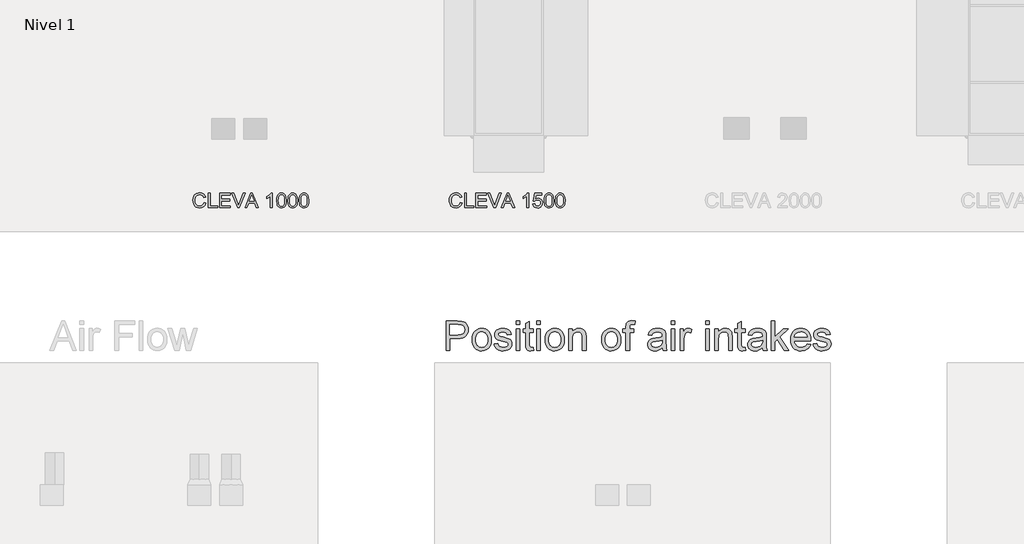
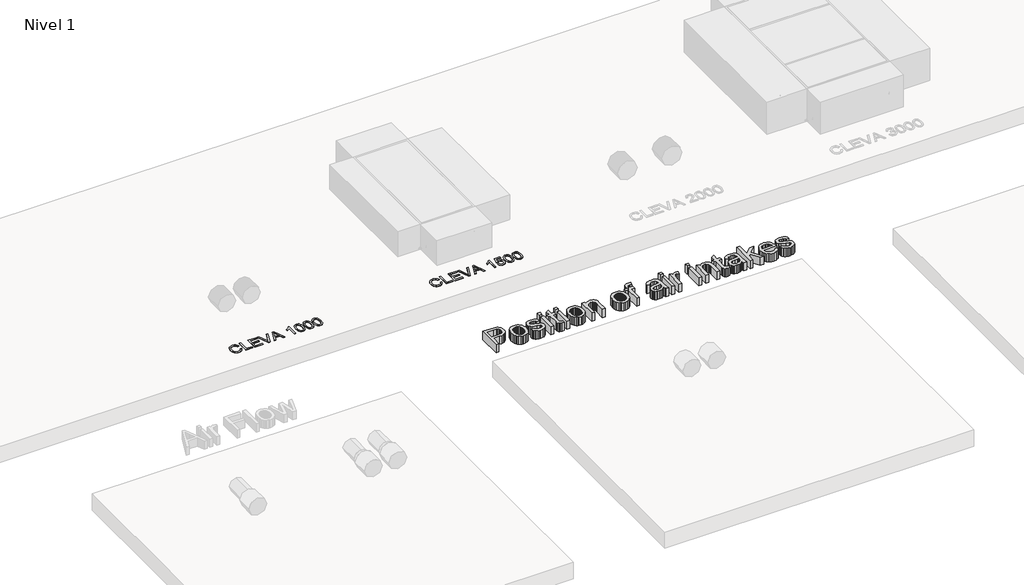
# One storey, part 2 of 4: 3 proxies.
"""IFC4 building model written with IfcOpenShell, lengths in millimetres."""

from ifc_helpers import new_model, si_unit, origin, origin_with_axes, place, context, project, spatial, polyline, outline, extrude, element, save

model = new_model("IFC4")

# Units and contexts
model_context = context("Model", 3, world=origin())
ifc_project = project(units=[si_unit("LENGTHUNIT", "METRE", prefix="MILLI")], contexts=[model_context])

# Site, building, storey
site = spatial("IfcSite", under=ifc_project)
building = spatial("IfcBuilding", under=site)
storey = spatial("IfcBuildingStorey", under=building, Name="Nivel 1", Elevation=0.0)

# Proxies
placement = place(None, origin())
element("IfcBuildingElementProxy", 1, Name="200mm Arial", ObjectType="200mm Arial", at=placement, inside=storey, context=model_context, shape_type="SweptSolid", body=[
    extrude(outline(polyline([(-6146.1687948, 6690.6454799), (-6121.0547173, 6684.1707568), (-6132.6430001, 6654.9057441), (-6150.8286334, 6633.5256688), (-6174.7164376, 6620.4474638), (-6203.4112333, 6616.0880622), (-6232.5413559, 6619.3867374), (-6255.6750021, 6629.2827631), (-6273.4069142, 6645.4327827), (-6286.331835, 6667.4934397), (-6294.2229038, 6693.4291203), (-6296.85326, 6721.204211), (-6293.8795472, 6750.4998805), (-6284.9584089, 6775.797899), (-6270.5558288, 6796.2950575), (-6251.1377908, 6811.188147), (-6228.1083779, 6820.2564382), (-6202.871673, 6823.2792019), (-6175.3357057, 6819.36739), (-6152.5699415, 6807.6319544), (-6135.2856191, 6788.7963962), (-6124.193977, 6763.5842168), (-6149.3080545, 6757.600003), (-6158.0145951, 6775.914395), (-6169.9094462, 6788.4775651), (-6185.1397608, 6795.7432345), (-6203.8526917, 6798.1651244), (-6225.4228393, 6795.4795858), (-6243.1424887, 6787.4229701), (-6256.5885757, 6774.8414059), (-6265.3380358, 6758.5810217), (-6270.1388958, 6740.1991846), (-6271.7391825, 6721.2532619), (-6269.8445902, 6698.0521707), (-6264.1608134, 6677.9903393), (-6254.4732542, 6661.8341883), (-6240.5673148, 6650.3501387), (-6223.896129, 6643.4891395), (-6205.9128308, 6641.2021397), (-6184.9496885, 6644.316874), (-6167.4814251, 6653.6610766), (-6154.2928555, 6669.1366459), (-6146.1687948, 6690.6454799)])), origin_with_axes(), (0.0, 0.0, 1.0), 10.0),
    extrude(outline(polyline([(-6086.5228607, 6619.2273219), (-6086.5228607, 6820.1399422), (-6061.4087831, 6820.1399422), (-6061.4087831, 6644.3413994), (-5960.952473, 6644.3413994), (-5960.952473, 6619.2273219), (-6086.5228607, 6619.2273219)])), origin_with_axes(), (0.0, 0.0, 1.0), 10.0),
    extrude(outline(polyline([(-5932.6991358, 6619.2273219), (-5932.6991358, 6820.1399422), (-5788.2931899, 6820.1399422), (-5788.2931899, 6795.0258647), (-5907.5850582, 6795.0258647), (-5907.5850582, 6735.3799305), (-5794.5717093, 6735.3799305), (-5794.5717093, 6710.265853), (-5907.5850582, 6710.265853), (-5907.5850582, 6644.3413994), (-5785.1539302, 6644.3413994), (-5785.1539302, 6619.2273219), (-5932.6991358, 6619.2273219)])), origin_with_axes(), (0.0, 0.0, 1.0), 10.0),
    extrude(outline(polyline([(-5585.663787, 6619.2273219), (-5505.465512, 6820.1399422), (-5484.0793054, 6820.1399422), (-5403.8810304, 6619.2273219), (-5430.417585, 6619.2273219), (-5453.4224724, 6682.0125157), (-5536.1713959, 6682.0125157), (-5559.1272324, 6619.2273219), (-5585.663787, 6619.2273219)]), holes=[polyline([(-5526.9498205, 6707.1265933), (-5462.5949968, 6707.1265933), (-5480.694791, 6756.5208825), (-5494.7724087, 6795.0258647), (-5507.2803965, 6760.8373646), (-5526.9498205, 6707.1265933)])]), origin_with_axes(), (0.0, 0.0, 1.0), 10.0),
    extrude(outline(polyline([(-5688.1311854, 6619.2273219), (-5768.0842056, 6820.1399422), (-5741.2042945, 6820.1399422), (-5687.689727, 6675.3906398), (-5676.8494708, 6642.7717696), (-5666.1563675, 6675.3906398), (-5612.4946471, 6820.1399422), (-5585.614736, 6820.1399422), (-5662.183242, 6619.2273219), (-5688.1311854, 6619.2273219)])), origin_with_axes(), (0.0, 0.0, 1.0), 10.0),
    extrude(outline(polyline([(-5213.8086662, 6619.2273219), (-5238.9227438, 6619.2273219), (-5238.9227438, 6775.797899), (-5262.7124461, 6758.8508018), (-5289.1508989, 6746.1711357), (-5289.1508989, 6769.9117871), (-5252.3381739, 6793.4071839), (-5238.8675615, 6806.9820295), (-5229.995474, 6820.1399422), (-5213.8086662, 6820.1399422), (-5213.8086662, 6619.2273219)])), origin_with_axes(), (0.0, 0.0, 1.0), 10.0),
    extrude(outline(polyline([(-5154.1627321, 6718.0649513), (-5152.3171907, 6750.223969), (-5146.7805667, 6775.8714754), (-5137.6080423, 6795.399878), (-5124.8547998, 6809.2015842), (-5108.4288687, 6817.4053527), (-5088.2382786, 6820.1399422), (-5072.7627093, 6818.5212614), (-5058.9058208, 6813.6652191), (-5047.317538, 6805.7618876), (-5038.6477856, 6795.0013392), (-5026.8755618, 6765.276474), (-5022.313825, 6718.0649513), (-5024.1409723, 6686.0898745), (-5029.622414, 6660.5036818), (-5038.7397561, 6640.9568851), (-5051.4746045, 6627.0999966), (-5067.9373238, 6618.8410458), (-5088.2382786, 6616.0880622), (-5114.3333747, 6620.8705281), (-5134.1499516, 6635.217926), (-5142.905543, 6650.347073), (-5149.159537, 6669.1979596), (-5154.1627321, 6718.0649513)]), holes=[polyline([(-5129.0486546, 6718.1140022), (-5126.1055986, 6678.6096073), (-5117.2764307, 6655.7457413), (-5104.1307807, 6644.8380401), (-5088.2382786, 6641.2021397), (-5072.3457764, 6644.8503029), (-5059.2001264, 6655.7947922), (-5050.3709585, 6678.670921), (-5047.4279026, 6718.1140022), (-5050.2728567, 6756.729349), (-5058.8077189, 6779.7710246), (-5071.9288434, 6791.2121546), (-5088.5325842, 6795.0258647), (-5104.2534081, 6791.6658758), (-5116.8840232, 6781.5859091), (-5126.0074967, 6757.1094937), (-5129.0486546, 6718.1140022)])]), origin_with_axes(), (0.0, 0.0, 1.0), 10.0),
    extrude(outline(polyline([(-5000.3390072, 6718.0649513), (-4998.4934658, 6750.223969), (-4992.9568418, 6775.8714754), (-4983.7843174, 6795.399878), (-4971.0310749, 6809.2015842), (-4954.6051438, 6817.4053527), (-4934.4145536, 6820.1399422), (-4918.9389844, 6818.5212614), (-4905.0820959, 6813.6652191), (-4893.493813, 6805.7618876), (-4884.8240607, 6795.0013392), (-4873.0518368, 6765.276474), (-4868.4901001, 6718.0649513), (-4870.3172473, 6686.0898745), (-4875.7986891, 6660.5036818), (-4884.9160312, 6640.9568851), (-4897.6508796, 6627.0999966), (-4914.1135989, 6618.8410458), (-4934.4145536, 6616.0880622), (-4960.5096498, 6620.8705281), (-4980.3262266, 6635.217926), (-4989.0818181, 6650.347073), (-4995.335812, 6669.1979596), (-5000.3390072, 6718.0649513)]), holes=[polyline([(-4975.2249296, 6718.1140022), (-4972.2818737, 6678.6096073), (-4963.4527058, 6655.7457413), (-4950.3070558, 6644.8380401), (-4934.4145536, 6641.2021397), (-4918.5220514, 6644.8503029), (-4905.3764015, 6655.7947922), (-4896.5472336, 6678.670921), (-4893.6041776, 6718.1140022), (-4896.4491317, 6756.729349), (-4904.983994, 6779.7710246), (-4918.1051185, 6791.2121546), (-4934.7088592, 6795.0258647), (-4950.4296832, 6791.6658758), (-4963.0602983, 6781.5859091), (-4972.1837718, 6757.1094937), (-4975.2249296, 6718.1140022)])]), origin_with_axes(), (0.0, 0.0, 1.0), 10.0),
    extrude(outline(polyline([(-4846.5152823, 6718.0649513), (-4844.6697409, 6750.223969), (-4839.1331169, 6775.8714754), (-4829.9605925, 6795.399878), (-4817.20735, 6809.2015842), (-4800.7814189, 6817.4053527), (-4780.5908287, 6820.1399422), (-4765.1152595, 6818.5212614), (-4751.258371, 6813.6652191), (-4739.6700881, 6805.7618876), (-4731.0003358, 6795.0013392), (-4719.2281119, 6765.276474), (-4714.6663752, 6718.0649513), (-4716.4935224, 6686.0898745), (-4721.9749642, 6660.5036818), (-4731.0923063, 6640.9568851), (-4743.8271547, 6627.0999966), (-4760.289874, 6618.8410458), (-4780.5908287, 6616.0880622), (-4806.6859249, 6620.8705281), (-4826.5025017, 6635.217926), (-4835.2580932, 6650.347073), (-4841.5120871, 6669.1979596), (-4846.5152823, 6718.0649513)]), holes=[polyline([(-4821.4012047, 6718.1140022), (-4818.4581488, 6678.6096073), (-4809.6289809, 6655.7457413), (-4796.4833309, 6644.8380401), (-4780.5908287, 6641.2021397), (-4764.6983265, 6644.8503029), (-4751.5526766, 6655.7947922), (-4742.7235087, 6678.670921), (-4739.7804527, 6718.1140022), (-4742.6254068, 6756.729349), (-4751.1602691, 6779.7710246), (-4764.2813936, 6791.2121546), (-4780.8851343, 6795.0258647), (-4796.6059582, 6791.6658758), (-4809.2365734, 6781.5859091), (-4818.3600469, 6757.1094937), (-4821.4012047, 6718.1140022)])]), origin_with_axes(), (0.0, 0.0, 1.0), 10.0),
])
element("IfcBuildingElementProxy", 2, Name="200mm Arial", ObjectType="200mm Arial", at=placement, inside=storey, context=model_context, shape_type="SweptSolid", body=[
    extrude(outline(polyline([(-2646.1687948, 6690.6454799), (-2621.0547173, 6684.1707568), (-2632.6430001, 6654.9057441), (-2650.8286334, 6633.5256688), (-2674.7164376, 6620.4474638), (-2703.4112333, 6616.0880622), (-2732.5413559, 6619.3867374), (-2755.6750021, 6629.2827631), (-2773.4069142, 6645.4327827), (-2786.331835, 6667.4934397), (-2794.2229038, 6693.4291203), (-2796.85326, 6721.204211), (-2793.8795472, 6750.4998805), (-2784.9584089, 6775.797899), (-2770.5558288, 6796.2950575), (-2751.1377908, 6811.188147), (-2728.1083779, 6820.2564382), (-2702.871673, 6823.2792019), (-2675.3357057, 6819.36739), (-2652.5699415, 6807.6319544), (-2635.2856191, 6788.7963962), (-2624.193977, 6763.5842168), (-2649.3080545, 6757.600003), (-2658.0145951, 6775.914395), (-2669.9094462, 6788.4775651), (-2685.1397608, 6795.7432345), (-2703.8526917, 6798.1651244), (-2725.4228393, 6795.4795858), (-2743.1424887, 6787.4229701), (-2756.5885757, 6774.8414059), (-2765.3380358, 6758.5810217), (-2770.1388958, 6740.1991846), (-2771.7391825, 6721.2532619), (-2769.8445902, 6698.0521707), (-2764.1608134, 6677.9903393), (-2754.4732542, 6661.8341883), (-2740.5673148, 6650.3501387), (-2723.896129, 6643.4891395), (-2705.9128308, 6641.2021397), (-2684.9496885, 6644.316874), (-2667.4814251, 6653.6610766), (-2654.2928555, 6669.1366459), (-2646.1687948, 6690.6454799)])), origin_with_axes(), (0.0, 0.0, 1.0), 10.0),
    extrude(outline(polyline([(-2586.5228607, 6619.2273219), (-2586.5228607, 6820.1399422), (-2561.4087831, 6820.1399422), (-2561.4087831, 6644.3413994), (-2460.952473, 6644.3413994), (-2460.952473, 6619.2273219), (-2586.5228607, 6619.2273219)])), origin_with_axes(), (0.0, 0.0, 1.0), 10.0),
    extrude(outline(polyline([(-2432.6991358, 6619.2273219), (-2432.6991358, 6820.1399422), (-2288.2931899, 6820.1399422), (-2288.2931899, 6795.0258647), (-2407.5850582, 6795.0258647), (-2407.5850582, 6735.3799305), (-2294.5717093, 6735.3799305), (-2294.5717093, 6710.265853), (-2407.5850582, 6710.265853), (-2407.5850582, 6644.3413994), (-2285.1539302, 6644.3413994), (-2285.1539302, 6619.2273219), (-2432.6991358, 6619.2273219)])), origin_with_axes(), (0.0, 0.0, 1.0), 10.0),
    extrude(outline(polyline([(-2085.663787, 6619.2273219), (-2005.465512, 6820.1399422), (-1984.0793054, 6820.1399422), (-1903.8810304, 6619.2273219), (-1930.417585, 6619.2273219), (-1953.4224724, 6682.0125157), (-2036.1713959, 6682.0125157), (-2059.1272324, 6619.2273219), (-2085.663787, 6619.2273219)]), holes=[polyline([(-2026.9498205, 6707.1265933), (-1962.5949968, 6707.1265933), (-1980.694791, 6756.5208825), (-1994.7724087, 6795.0258647), (-2007.2803965, 6760.8373646), (-2026.9498205, 6707.1265933)])]), origin_with_axes(), (0.0, 0.0, 1.0), 10.0),
    extrude(outline(polyline([(-2188.1311854, 6619.2273219), (-2268.0842056, 6820.1399422), (-2241.2042945, 6820.1399422), (-2187.689727, 6675.3906398), (-2176.8494708, 6642.7717696), (-2166.1563675, 6675.3906398), (-2112.4946471, 6820.1399422), (-2085.614736, 6820.1399422), (-2162.183242, 6619.2273219), (-2188.1311854, 6619.2273219)])), origin_with_axes(), (0.0, 0.0, 1.0), 10.0),
    extrude(outline(polyline([(-1713.8086662, 6619.2273219), (-1738.9227438, 6619.2273219), (-1738.9227438, 6775.797899), (-1762.7124461, 6758.8508018), (-1789.1508989, 6746.1711357), (-1789.1508989, 6769.9117871), (-1752.3381739, 6793.4071839), (-1738.8675615, 6806.9820295), (-1729.995474, 6820.1399422), (-1713.8086662, 6820.1399422), (-1713.8086662, 6619.2273219)])), origin_with_axes(), (0.0, 0.0, 1.0), 10.0),
    extrude(outline(polyline([(-1654.1627321, 6672.5947367), (-1629.0486546, 6675.7339964), (-1624.4378669, 6660.6569659), (-1616.3935139, 6649.8596294), (-1604.9523839, 6643.3665121), (-1590.1512649, 6641.2021397), (-1572.1495726, 6644.2126407), (-1558.6605661, 6653.2441437), (-1550.2360685, 6667.2543164), (-1547.4279026, 6685.2008264), (-1550.0582588, 6702.0988727), (-1557.9493276, 6715.0237934), (-1571.1624226, 6723.2275619), (-1589.7588575, 6725.9621514), (-1611.8072517, 6721.5966184), (-1625.9093949, 6710.265853), (-1651.0234724, 6713.4051127), (-1629.0486546, 6817.0006825), (-1531.7316041, 6817.0006825), (-1531.7316041, 6791.886605), (-1608.7415684, 6791.886605), (-1619.4837227, 6736.5571529), (-1601.543344, 6747.4464599), (-1582.7445741, 6751.076229), (-1559.2798342, 6746.5758059), (-1539.8004825, 6733.0745367), (-1526.6854894, 6712.4976704), (-1522.313825, 6686.7704562), (-1526.2501624, 6661.6563787), (-1538.0591744, 6640.1720702), (-1548.4947603, 6629.6353167), (-1560.6716544, 6622.1090642), (-1574.5898565, 6617.5933127), (-1590.2493668, 6616.0880622), (-1614.9158546, 6619.9569545), (-1634.5668845, 6631.5636315), (-1648.0374969, 6649.5591924), (-1654.1627321, 6672.5947367)])), origin_with_axes(), (0.0, 0.0, 1.0), 10.0),
    extrude(outline(polyline([(-1500.3390072, 6718.0649513), (-1498.4934658, 6750.223969), (-1492.9568418, 6775.8714754), (-1483.7843174, 6795.399878), (-1471.0310749, 6809.2015842), (-1454.6051438, 6817.4053527), (-1434.4145536, 6820.1399422), (-1418.9389844, 6818.5212614), (-1405.0820959, 6813.6652191), (-1393.493813, 6805.7618876), (-1384.8240607, 6795.0013392), (-1373.0518368, 6765.276474), (-1368.4901001, 6718.0649513), (-1370.3172473, 6686.0898745), (-1375.7986891, 6660.5036818), (-1384.9160312, 6640.9568851), (-1397.6508796, 6627.0999966), (-1414.1135989, 6618.8410458), (-1434.4145536, 6616.0880622), (-1460.5096498, 6620.8705281), (-1480.3262266, 6635.217926), (-1489.0818181, 6650.347073), (-1495.335812, 6669.1979596), (-1500.3390072, 6718.0649513)]), holes=[polyline([(-1475.2249296, 6718.1140022), (-1472.2818737, 6678.6096073), (-1463.4527058, 6655.7457413), (-1450.3070558, 6644.8380401), (-1434.4145536, 6641.2021397), (-1418.5220514, 6644.8503029), (-1405.3764015, 6655.7947922), (-1396.5472336, 6678.670921), (-1393.6041776, 6718.1140022), (-1396.4491317, 6756.729349), (-1404.983994, 6779.7710246), (-1418.1051185, 6791.2121546), (-1434.7088592, 6795.0258647), (-1450.4296832, 6791.6658758), (-1463.0602983, 6781.5859091), (-1472.1837718, 6757.1094937), (-1475.2249296, 6718.1140022)])]), origin_with_axes(), (0.0, 0.0, 1.0), 10.0),
    extrude(outline(polyline([(-1346.5152823, 6718.0649513), (-1344.6697409, 6750.223969), (-1339.1331169, 6775.8714754), (-1329.9605925, 6795.399878), (-1317.20735, 6809.2015842), (-1300.7814189, 6817.4053527), (-1280.5908287, 6820.1399422), (-1265.1152595, 6818.5212614), (-1251.258371, 6813.6652191), (-1239.6700881, 6805.7618876), (-1231.0003358, 6795.0013392), (-1219.2281119, 6765.276474), (-1214.6663752, 6718.0649513), (-1216.4935224, 6686.0898745), (-1221.9749642, 6660.5036818), (-1231.0923063, 6640.9568851), (-1243.8271547, 6627.0999966), (-1260.289874, 6618.8410458), (-1280.5908287, 6616.0880622), (-1306.6859249, 6620.8705281), (-1326.5025017, 6635.217926), (-1335.2580932, 6650.347073), (-1341.5120871, 6669.1979596), (-1346.5152823, 6718.0649513)]), holes=[polyline([(-1321.4012047, 6718.1140022), (-1318.4581488, 6678.6096073), (-1309.6289809, 6655.7457413), (-1296.4833309, 6644.8380401), (-1280.5908287, 6641.2021397), (-1264.6983265, 6644.8503029), (-1251.5526766, 6655.7947922), (-1242.7235087, 6678.670921), (-1239.7804527, 6718.1140022), (-1242.6254068, 6756.729349), (-1251.1602691, 6779.7710246), (-1264.2813936, 6791.2121546), (-1280.8851343, 6795.0258647), (-1296.6059582, 6791.6658758), (-1309.2365734, 6781.5859091), (-1318.3600469, 6757.1094937), (-1321.4012047, 6718.1140022)])]), origin_with_axes(), (0.0, 0.0, 1.0), 10.0),
])
element("IfcBuildingElementProxy", 3, Name="400mm Arial", ObjectType="400mm Arial", at=placement, inside=storey, context=model_context, shape_type="SweptSolid", body=[
    extrude(outline(polyline([(-2837.484269, 4668.837362), (-2837.484269, 5070.6626026), (-2688.5656373, 5070.6626026), (-2628.5272957, 5066.8366298), (-2601.7577492, 5059.6874564), (-2579.7216177, 5048.0501226), (-2561.9774428, 5031.3973309), (-2548.0837661, 5009.2017839), (-2539.1074454, 4983.0208486), (-2536.1153385, 4954.4118921), (-2538.1356238, 4929.7454043), (-2544.1964797, 4907.0532166), (-2554.2979061, 4886.3353289), (-2568.4399031, 4867.5917412), (-2587.8548754, 4852.0548583), (-2613.7752277, 4840.9570848), (-2646.2009599, 4834.2984207), (-2685.132072, 4832.0788659), (-2787.2561139, 4832.0788659), (-2787.2561139, 4668.837362), (-2837.484269, 4668.837362)]), holes=[polyline([(-2787.2561139, 4882.307021), (-2682.1890161, 4882.307021), (-2637.6507692, 4886.9178087), (-2621.0470285, 4892.6812933), (-2608.2202096, 4900.7501717), (-2598.6491463, 4910.9098461), (-2591.8126726, 4922.9457188), (-2586.3434936, 4952.6460585), (-2589.5685924, 4975.2094875), (-2599.2438889, 4994.2412494), (-2614.1676351, 5008.5641218), (-2633.1380834, 5017.0008822), (-2683.3662384, 5020.4344475), (-2787.2561139, 5020.4344475), (-2787.2561139, 4882.307021)])]), origin_with_axes(), (0.0, 0.0, 1.0), 150.0),
    extrude(outline(polyline([(-2485.8871834, 4816.3825675), (-2483.170988, 4854.5993754), (-2475.0224018, 4887.5309454), (-2461.4414248, 4915.1772773), (-2442.4280571, 4937.5383712), (-2423.2859306, 4951.8305867), (-2402.1572413, 4962.0393121), (-2379.0419893, 4968.1645473), (-2353.9401745, 4970.2062924), (-2326.2294632, 4967.7200233), (-2301.1736337, 4960.2612158), (-2278.7726858, 4947.82987), (-2259.0266197, 4930.425986), (-2242.9103227, 4908.6381748), (-2231.3986819, 4883.0550477), (-2224.4916974, 4853.6766047), (-2222.1893693, 4820.5028458), (-2226.2605967, 4769.759656), (-2238.4742789, 4731.1320465), (-2258.4747967, 4702.2042589), (-2285.9065309, 4680.5605349), (-2318.4886129, 4667.0592656), (-2353.9401745, 4662.5588426), (-2382.055556, 4665.0359147), (-2407.3443775, 4672.467131), (-2429.8066389, 4684.8524915), (-2449.4423404, 4702.1919962), (-2465.3869592, 4724.1913395), (-2476.7759727, 4750.5562158), (-2483.6093807, 4781.2866251), (-2485.8871834, 4816.3825675)]), holes=[polyline([(-2435.6590284, 4816.4806694), (-2434.2058945, 4792.1176842), (-2429.8464928, 4771.0227175), (-2422.5808234, 4753.1957691), (-2412.4088863, 4738.6368392), (-2400.0357885, 4727.3275335), (-2386.1666373, 4719.249458), (-2370.8014326, 4714.4026127), (-2353.9401745, 4712.7869976), (-2337.1647555, 4714.4118098), (-2321.8608645, 4719.2862462), (-2308.0285015, 4727.410307), (-2295.6676665, 4738.783992), (-2285.4957293, 4753.487009), (-2278.2300599, 4771.5990659), (-2273.8706582, 4793.1201627), (-2272.4175244, 4818.0502992), (-2273.8798553, 4841.6407321), (-2278.2668481, 4862.1838759), (-2285.5785027, 4879.6797304), (-2295.8148193, 4894.1282958), (-2308.2216395, 4905.4376015), (-2322.0448055, 4913.5156769), (-2337.2843172, 4918.3625222), (-2353.9401745, 4919.9781373), (-2370.8014326, 4918.3686536), (-2386.1666373, 4913.5402024), (-2400.0357885, 4905.4927838), (-2412.4088863, 4894.2263977), (-2422.5808234, 4879.7103873), (-2429.8464928, 4861.9140958), (-2434.2058945, 4840.8375231), (-2435.6590284, 4816.4806694)])]), origin_with_axes(), (0.0, 0.0, 1.0), 150.0),
    extrude(outline(polyline([(-2184.518253, 4756.7366333), (-2134.2900979, 4763.0151527), (-2126.3683723, 4741.5308442), (-2111.0399558, 4725.7364439), (-2088.2067466, 4716.0243592), (-2057.7706429, 4712.7869976), (-2027.7024212, 4715.7545791), (-2006.5614692, 4724.6573234), (-1994.0534813, 4737.5577187), (-1989.8841521, 4752.5182531), (-1994.0780068, 4765.3205466), (-2006.659571, 4775.0816822), (-2058.3592541, 4789.4045545), (-2133.9957923, 4813.9790718), (-2153.1379188, 4826.3276441), (-2167.00707, 4842.6738674), (-2175.4315677, 4861.9754094), (-2178.2397336, 4883.1899378), (-2175.9833907, 4902.6508954), (-2169.214362, 4920.6157995), (-2158.5457841, 4936.3734116), (-2144.5907938, 4949.2124932), (-2112.6586366, 4964.0749258), (-2091.775202, 4968.6734508), (-2069.4447649, 4970.2062924), (-2036.7523183, 4967.741483), (-2008.3273028, 4960.3470549), (-1985.4695681, 4948.7465094), (-1969.4789641, 4933.6633475), (-1958.8839626, 4913.9816608), (-1952.2130358, 4888.5855404), (-2002.4411908, 4882.307021), (-2008.7810239, 4898.1136841), (-2021.3257999, 4910.020798), (-2040.1981463, 4917.4888025), (-2065.5206903, 4919.9781373), (-2094.3626387, 4917.5991671), (-2113.5906043, 4910.4622564), (-2124.406335, 4900.1615605), (-2128.0115785, 4888.2912348), (-2122.0273647, 4873.6740569), (-2103.2899084, 4862.5885461), (-2060.0269858, 4851.8954428), (-1986.303434, 4828.2528932), (-1966.8302137, 4816.9466532), (-1952.065883, 4801.4710839), (-1942.7584685, 4781.7771345), (-1939.655997, 4757.8157539), (-1943.2980287, 4733.0450328), (-1954.224124, 4709.7458398), (-1972.0173498, 4689.745322), (-1996.2607733, 4674.8706267), (-2025.5441801, 4665.6367886), (-2058.457356, 4662.5588426), (-2085.4905512, 4664.0426333), (-2109.102444, 4668.4940054), (-2129.2930341, 4675.912959), (-2146.0623218, 4686.299494), (-2159.7597947, 4699.6045595), (-2170.7349409, 4715.7791045), (-2178.9877603, 4734.8231292), (-2184.518253, 4756.7366333)])), origin_with_axes(), (0.0, 0.0, 1.0), 150.0),
    extrude(outline(polyline([(-1883.1493225, 5020.4344475), (-1883.1493225, 5070.6626026), (-1832.9211675, 5070.6626026), (-1832.9211675, 5020.4344475), (-1883.1493225, 5020.4344475)])), origin_with_axes(), (0.0, 0.0, 1.0), 150.0),
    extrude(outline(polyline([(-1883.1493225, 4668.837362), (-1883.1493225, 4963.927773), (-1832.9211675, 4963.927773), (-1832.9211675, 4668.837362), (-1883.1493225, 4668.837362)])), origin_with_axes(), (0.0, 0.0, 1.0), 150.0),
    extrude(outline(polyline([(-1650.8441053, 4710.7268585), (-1644.5655859, 4667.365834), (-1682.1386004, 4662.5588426), (-1706.2471338, 4664.6435072), (-1724.2243006, 4670.8975011), (-1736.9284922, 4680.5360094), (-1745.2180998, 4692.7742171), (-1749.7798365, 4713.7925418), (-1751.3004155, 4749.7714009), (-1751.3004155, 4913.6996179), (-1788.9715318, 4913.6996179), (-1788.9715318, 4963.927773), (-1751.3004155, 4963.927773), (-1751.3004155, 5035.6402366), (-1701.0722604, 5065.1688981), (-1701.0722604, 4963.927773), (-1650.8441053, 4963.927773), (-1650.8441053, 4913.6996179), (-1701.0722604, 4913.6996179), (-1701.0722604, 4751.2429289), (-1698.42351, 4725.3440364), (-1689.8395968, 4716.171512), (-1672.7208213, 4712.7869976), (-1650.8441053, 4710.7268585)])), origin_with_axes(), (0.0, 0.0, 1.0), 150.0),
    extrude(outline(polyline([(-1600.6159502, 5020.4344475), (-1600.6159502, 5070.6626026), (-1550.3877952, 5070.6626026), (-1550.3877952, 5020.4344475), (-1600.6159502, 5020.4344475)])), origin_with_axes(), (0.0, 0.0, 1.0), 150.0),
    extrude(outline(polyline([(-1600.6159502, 4668.837362), (-1600.6159502, 4963.927773), (-1550.3877952, 4963.927773), (-1550.3877952, 4668.837362), (-1600.6159502, 4668.837362)])), origin_with_axes(), (0.0, 0.0, 1.0), 150.0),
    extrude(outline(polyline([(-1487.6026013, 4816.3825675), (-1484.8864059, 4854.5993754), (-1476.7378197, 4887.5309454), (-1463.1568427, 4915.1772773), (-1444.143475, 4937.5383712), (-1425.0013485, 4951.8305867), (-1403.8726592, 4962.0393121), (-1380.7574072, 4968.1645473), (-1355.6555924, 4970.2062924), (-1327.9448811, 4967.7200233), (-1302.8890515, 4960.2612158), (-1280.4881037, 4947.82987), (-1260.7420376, 4930.425986), (-1244.6257406, 4908.6381748), (-1233.1140998, 4883.0550477), (-1226.2071153, 4853.6766047), (-1223.9047872, 4820.5028458), (-1227.9760146, 4769.759656), (-1240.1896968, 4731.1320465), (-1260.1902146, 4702.2042589), (-1287.6219487, 4680.5605349), (-1320.2040308, 4667.0592656), (-1355.6555924, 4662.5588426), (-1383.7709739, 4665.0359147), (-1409.0597953, 4672.467131), (-1431.5220568, 4684.8524915), (-1451.1577583, 4702.1919962), (-1467.1023771, 4724.1913395), (-1478.4913906, 4750.5562158), (-1485.3247986, 4781.2866251), (-1487.6026013, 4816.3825675)]), holes=[polyline([(-1437.3744462, 4816.4806694), (-1435.9213124, 4792.1176842), (-1431.5619107, 4771.0227175), (-1424.2962413, 4753.1957691), (-1414.1243041, 4738.6368392), (-1401.7512064, 4727.3275335), (-1387.8820552, 4719.249458), (-1372.5168505, 4714.4026127), (-1355.6555924, 4712.7869976), (-1338.8801734, 4714.4118098), (-1323.5762824, 4719.2862462), (-1309.7439194, 4727.410307), (-1297.3830843, 4738.783992), (-1287.2111472, 4753.487009), (-1279.9454778, 4771.5990659), (-1275.5860761, 4793.1201627), (-1274.1329422, 4818.0502992), (-1275.5952732, 4841.6407321), (-1279.982266, 4862.1838759), (-1287.2939206, 4879.6797304), (-1297.5302371, 4894.1282958), (-1309.9370574, 4905.4376015), (-1323.7602234, 4913.5156769), (-1338.999735, 4918.3625222), (-1355.6555924, 4919.9781373), (-1372.5168505, 4918.3686536), (-1387.8820552, 4913.5402024), (-1401.7512064, 4905.4927838), (-1414.1243041, 4894.2263977), (-1424.2962413, 4879.7103873), (-1431.5619107, 4861.9140958), (-1435.9213124, 4840.8375231), (-1437.3744462, 4816.4806694)])]), origin_with_axes(), (0.0, 0.0, 1.0), 150.0),
    extrude(outline(polyline([(-1167.3981127, 4668.837362), (-1167.3981127, 4963.927773), (-1117.1699576, 4963.927773), (-1117.1699576, 4922.7249896), (-1099.7200883, 4943.4980596), (-1078.7630773, 4958.3359667), (-1054.2989247, 4967.238711), (-1026.3276303, 4970.2062924), (-1001.569172, 4967.8150594), (-978.8953784, 4960.6413605), (-959.9862438, 4949.5803752), (-946.5217628, 4935.527283), (-937.3860266, 4918.5188721), (-931.4631265, 4898.5919307), (-928.8143761, 4850.0315073), (-928.8143761, 4668.837362), (-979.0425312, 4668.837362), (-979.0425312, 4843.2624786), (-980.4895337, 4869.2349475), (-984.8305412, 4887.7026236), (-992.838106, 4900.9341127), (-1005.2847802, 4911.1980204), (-1021.238596, 4917.7831081), (-1039.7675859, 4919.9781373), (-1069.1858827, 4915.0485186), (-1094.2631721, 4900.2596624), (-1104.2848908, 4888.1870016), (-1111.4432612, 4871.6874941), (-1115.7382835, 4850.7611399), (-1117.1699576, 4825.4079391), (-1117.1699576, 4668.837362), (-1167.3981127, 4668.837362)])), origin_with_axes(), (0.0, 0.0, 1.0), 150.0),
    extrude(outline(polyline([(-715.344717, 4816.3825675), (-712.6285216, 4854.5993754), (-704.4799355, 4887.5309454), (-690.8989585, 4915.1772773), (-671.8855907, 4937.5383712), (-652.7434642, 4951.8305867), (-631.6147749, 4962.0393121), (-608.4995229, 4968.1645473), (-583.3977081, 4970.2062924), (-555.6869968, 4967.7200233), (-530.6311673, 4960.2612158), (-508.2302194, 4947.82987), (-488.4841533, 4930.425986), (-472.3678563, 4908.6381748), (-460.8562155, 4883.0550477), (-453.9492311, 4853.6766047), (-451.6469029, 4820.5028458), (-455.7181303, 4769.759656), (-467.9318126, 4731.1320465), (-487.9323304, 4702.2042589), (-515.3640645, 4680.5605349), (-547.9461465, 4667.0592656), (-583.3977081, 4662.5588426), (-611.5130896, 4665.0359147), (-636.8019111, 4672.467131), (-659.2641726, 4684.8524915), (-678.8998741, 4702.1919962), (-694.8444929, 4724.1913395), (-706.2335063, 4750.5562158), (-713.0669144, 4781.2866251), (-715.344717, 4816.3825675)]), holes=[polyline([(-665.116562, 4816.4806694), (-663.6634281, 4792.1176842), (-659.3040264, 4771.0227175), (-652.038357, 4753.1957691), (-641.8664199, 4738.6368392), (-629.4933221, 4727.3275335), (-615.6241709, 4719.249458), (-600.2589662, 4714.4026127), (-583.3977081, 4712.7869976), (-566.6222891, 4714.4118098), (-551.3183981, 4719.2862462), (-537.4860351, 4727.410307), (-525.1252001, 4738.783992), (-514.9532629, 4753.487009), (-507.6875935, 4771.5990659), (-503.3281919, 4793.1201627), (-501.875058, 4818.0502992), (-503.3373889, 4841.6407321), (-507.7243817, 4862.1838759), (-515.0360364, 4879.6797304), (-525.2723529, 4894.1282958), (-537.6791732, 4905.4376015), (-551.5023391, 4913.5156769), (-566.7418508, 4918.3625222), (-583.3977081, 4919.9781373), (-600.2589662, 4918.3686536), (-615.6241709, 4913.5402024), (-629.4933221, 4905.4927838), (-641.8664199, 4894.2263977), (-652.038357, 4879.7103873), (-659.3040264, 4861.9140958), (-663.6634281, 4840.8375231), (-665.116562, 4816.4806694)])]), origin_with_axes(), (0.0, 0.0, 1.0), 150.0),
    extrude(outline(polyline([(-382.5831897, 4668.837362), (-382.5831897, 4913.6996179), (-426.5328254, 4913.6996179), (-426.5328254, 4963.927773), (-382.5831897, 4963.927773), (-382.5831897, 4993.6526382), (-381.2588145, 5018.251681), (-377.2856889, 5035.5421347), (-367.1811968, 5052.2439773), (-351.5830002, 5065.4632037), (-329.7553352, 5074.0716424), (-300.9624377, 5076.9411219), (-255.1488665, 5071.4474175), (-262.5065064, 5024.3585221), (-291.4465567, 5026.7129669), (-310.5396323, 5024.6283022), (-323.0844083, 5018.3743083), (-330.037378, 5006.4304062), (-332.3550346, 4987.276017), (-332.3550346, 4963.927773), (-275.8483601, 4963.927773), (-275.8483601, 4913.6996179), (-332.3550346, 4913.6996179), (-332.3550346, 4668.837362), (-382.5831897, 4668.837362)])), origin_with_axes(), (0.0, 0.0, 1.0), 150.0),
    extrude(outline(polyline([(113.4198417, 4706.5084783), (89.4216729, 4685.931612), (64.7122655, 4672.467131), (38.7275339, 4665.0359147), (10.9033924, 4662.5588426), (-11.4607673, 4664.0487647), (-31.0719433, 4668.5185309), (-47.9301357, 4675.9681413), (-62.0353445, 4686.3975959), (-73.1729719, 4699.144707), (-81.1284201, 4713.5472871), (-85.901689, 4729.6053362), (-87.4927786, 4747.3188543), (-85.0892829, 4768.1409752), (-77.8787958, 4787.0501097), (-66.7564968, 4803.2369175), (-52.6175655, 4815.8920582), (-36.001562, 4825.45699), (-17.4480467, 4832.3731715), (26.0110796, 4839.9270152), (77.3674062, 4847.8732663), (113.1255361, 4857.1929435), (113.4198417, 4868.3765561), (109.9617509, 4890.7928324), (99.5874787, 4905.4590613), (76.3863875, 4916.3483683), (44.0618229, 4919.9781373), (14.1407539, 4917.5623789), (-6.7549434, 4910.3151036), (-21.0042393, 4896.9119362), (-30.9861041, 4876.0285016), (-81.2142592, 4882.307021), (-72.4954559, 4909.7755433), (-59.484696, 4931.3579537), (-40.9679689, 4947.8635926), (-15.7312641, 4960.1018003), (15.1340353, 4967.6801694), (50.536546, 4970.2062924), (84.4920541, 4967.974475), (111.4087535, 4961.2790227), (131.7035769, 4951.2113187), (145.7934573, 4938.8627464), (155.1376599, 4923.5956436), (161.1954501, 4904.7723482), (163.6479968, 4860.8227125), (163.6479968, 4798.3318243), (166.1986453, 4711.070215), (176.2050355, 4668.837362), (125.9768805, 4668.837362), (117.9325275, 4686.299494), (113.4198417, 4706.5084783)]), holes=[polyline([(113.4198417, 4806.9647884), (79.6728, 4798.6016044), (32.3877009, 4791.5627955), (-10.8261708, 4783.4203407), (-22.0710971, 4777.8530599), (-30.397493, 4770.1765889), (-35.5478409, 4760.979539), (-37.2646235, 4750.8505214), (-33.5244899, 4735.9145124), (-22.3040891, 4723.6763047), (-3.8486756, 4715.5093244), (21.5964957, 4712.7869976), (48.5745087, 4715.7913673), (72.413262, 4724.8044762), (91.7393294, 4738.0850162), (105.179285, 4753.8916792), (111.1389733, 4770.1765889), (113.1255361, 4792.7400179), (113.4198417, 4806.9647884)])]), origin_with_axes(), (0.0, 0.0, 1.0), 150.0),
    extrude(outline(polyline([(232.71171, 5020.4344475), (232.71171, 5070.6626026), (282.9398651, 5070.6626026), (282.9398651, 5020.4344475), (232.71171, 5020.4344475)])), origin_with_axes(), (0.0, 0.0, 1.0), 150.0),
    extrude(outline(polyline([(232.71171, 4668.837362), (232.71171, 4963.927773), (282.9398651, 4963.927773), (282.9398651, 4668.837362), (232.71171, 4668.837362)])), origin_with_axes(), (0.0, 0.0, 1.0), 150.0),
    extrude(outline(polyline([(358.2820977, 4668.837362), (358.2820977, 4963.927773), (402.2317334, 4963.927773), (402.2317334, 4920.2724429), (418.4675921, 4945.5827242), (433.4281266, 4960.4942077), (448.437712, 4967.7782712), (464.8207235, 4970.2062924), (489.8366992, 4966.3312687), (515.2450823, 4954.7061977), (498.4696633, 4909.6774415), (480.8113275, 4917.4029634), (463.1529918, 4919.9781373), (448.1556691, 4917.5010652), (434.7525017, 4910.0698489), (423.9245084, 4898.2485741), (416.6527076, 4882.6013266), (410.5458665, 4854.5441931), (408.5102528, 4823.9364111), (408.5102528, 4668.837362), (358.2820977, 4668.837362)])), origin_with_axes(), (0.0, 0.0, 1.0), 150.0),
    extrude(outline(polyline([(703.6006638, 5020.4344475), (703.6006638, 5070.6626026), (753.8288189, 5070.6626026), (753.8288189, 5020.4344475), (703.6006638, 5020.4344475)])), origin_with_axes(), (0.0, 0.0, 1.0), 150.0),
    extrude(outline(polyline([(703.6006638, 4668.837362), (703.6006638, 4963.927773), (753.8288189, 4963.927773), (753.8288189, 4668.837362), (703.6006638, 4668.837362)])), origin_with_axes(), (0.0, 0.0, 1.0), 150.0),
    extrude(outline(polyline([(829.1710515, 4668.837362), (829.1710515, 4963.927773), (879.3992066, 4963.927773), (879.3992066, 4922.7249896), (896.8490759, 4943.4980596), (917.8060869, 4958.3359667), (942.2702396, 4967.238711), (970.2415339, 4970.2062924), (994.9999922, 4967.8150594), (1017.6737858, 4960.6413605), (1036.5829204, 4949.5803752), (1050.0474014, 4935.527283), (1059.1831376, 4918.5188721), (1065.1060377, 4898.5919307), (1067.7547881, 4850.0315073), (1067.7547881, 4668.837362), (1017.526633, 4668.837362), (1017.526633, 4843.2624786), (1016.0796305, 4869.2349475), (1011.738623, 4887.7026236), (1003.7310582, 4900.9341127), (991.284384, 4911.1980204), (975.3305682, 4917.7831081), (956.8015784, 4919.9781373), (927.3832815, 4915.0485186), (902.3059921, 4900.2596624), (892.2842735, 4888.1870016), (885.125903, 4871.6874941), (880.8308807, 4850.7611399), (879.3992066, 4825.4079391), (879.3992066, 4668.837362), (829.1710515, 4668.837362)])), origin_with_axes(), (0.0, 0.0, 1.0), 150.0),
    extrude(outline(polyline([(1243.5533309, 4710.7268585), (1249.8318503, 4667.365834), (1212.2588358, 4662.5588426), (1188.1503024, 4664.6435072), (1170.1731356, 4670.8975011), (1157.468944, 4680.5360094), (1149.1793364, 4692.7742171), (1144.6175996, 4713.7925418), (1143.0970207, 4749.7714009), (1143.0970207, 4913.6996179), (1105.4259044, 4913.6996179), (1105.4259044, 4963.927773), (1143.0970207, 4963.927773), (1143.0970207, 5035.6402366), (1193.3251758, 5065.1688981), (1193.3251758, 4963.927773), (1243.5533309, 4963.927773), (1243.5533309, 4913.6996179), (1193.3251758, 4913.6996179), (1193.3251758, 4751.2429289), (1195.9739262, 4725.3440364), (1204.5578394, 4716.171512), (1221.6766149, 4712.7869976), (1243.5533309, 4710.7268585)])), origin_with_axes(), (0.0, 0.0, 1.0), 150.0),
    extrude(outline(polyline([(1482.1370675, 4706.5084783), (1458.1388987, 4685.931612), (1433.4294913, 4672.467131), (1407.4447597, 4665.0359147), (1379.6206182, 4662.5588426), (1357.2564585, 4664.0487647), (1337.6452825, 4668.5185309), (1320.7870901, 4675.9681413), (1306.6818812, 4686.3975959), (1295.5442538, 4699.144707), (1287.5888057, 4713.5472871), (1282.8155368, 4729.6053362), (1281.2244472, 4747.3188543), (1283.6279429, 4768.1409752), (1290.83843, 4787.0501097), (1301.960729, 4803.2369175), (1316.0996603, 4815.8920582), (1332.7156638, 4825.45699), (1351.2691791, 4832.3731715), (1394.7283054, 4839.9270152), (1446.084632, 4847.8732663), (1481.8427619, 4857.1929435), (1482.1370675, 4868.3765561), (1478.6789767, 4890.7928324), (1468.3047045, 4905.4590613), (1445.1036133, 4916.3483683), (1412.7790487, 4919.9781373), (1382.8579797, 4917.5623789), (1361.9622824, 4910.3151036), (1347.7129864, 4896.9119362), (1337.7311216, 4876.0285016), (1287.5029666, 4882.307021), (1296.2217699, 4909.7755433), (1309.2325297, 4931.3579537), (1327.7492568, 4947.8635926), (1352.9859617, 4960.1018003), (1383.8512611, 4967.6801694), (1419.2537718, 4970.2062924), (1453.2092799, 4967.974475), (1480.1259792, 4961.2790227), (1500.4208026, 4951.2113187), (1514.5106831, 4938.8627464), (1523.8548857, 4923.5956436), (1529.9126759, 4904.7723482), (1532.3652226, 4860.8227125), (1532.3652226, 4798.3318243), (1534.9158711, 4711.070215), (1544.9222613, 4668.837362), (1494.6941062, 4668.837362), (1486.6497533, 4686.299494), (1482.1370675, 4706.5084783)]), holes=[polyline([(1482.1370675, 4806.9647884), (1448.3900258, 4798.6016044), (1401.1049267, 4791.5627955), (1357.891055, 4783.4203407), (1346.6461287, 4777.8530599), (1338.3197328, 4770.1765889), (1333.1693849, 4760.979539), (1331.4526023, 4750.8505214), (1335.1927359, 4735.9145124), (1346.4131367, 4723.6763047), (1364.8685502, 4715.5093244), (1390.3137215, 4712.7869976), (1417.2917345, 4715.7913673), (1441.1304878, 4724.8044762), (1460.4565552, 4738.0850162), (1473.8965108, 4753.8916792), (1479.8561991, 4770.1765889), (1481.8427619, 4792.7400179), (1482.1370675, 4806.9647884)])]), origin_with_axes(), (0.0, 0.0, 1.0), 150.0),
    extrude(outline(polyline([(1601.4289358, 4668.837362), (1601.4289358, 5070.6626026), (1651.6570909, 5070.6626026), (1651.6570909, 4854.7403969), (1764.2780323, 4963.927773), (1833.734153, 4963.927773), (1719.7397854, 4853.3669707), (1840.0126724, 4668.837362), (1781.3477569, 4668.837362), (1683.7364008, 4818.4427067), (1651.6570909, 4787.3444153), (1651.6570909, 4668.837362), (1601.4289358, 4668.837362)])), origin_with_axes(), (0.0, 0.0, 1.0), 150.0),
    extrude(outline(polyline([(2090.5648366, 4756.7366333), (2139.811973, 4750.458114), (2132.261195, 4730.7335076), (2122.0677981, 4713.3510834), (2109.2317821, 4698.3108411), (2093.7531472, 4685.6127809), (2075.7913088, 4675.5266829), (2055.5056824, 4668.3223272), (2007.9630659, 4662.5588426), (1976.7973296, 4665.0451117), (1949.0283703, 4672.5039192), (1924.6561881, 4684.9352649), (1903.680783, 4702.339149), (1886.8133935, 4724.2311934), (1874.7652582, 4750.1270202), (1867.536377, 4780.0266293), (1865.1267499, 4813.9300209), (1867.5609025, 4848.9830436), (1874.8633601, 4879.8789999), (1887.0341227, 4906.6178895), (1904.0731905, 4929.1997127), (1924.9934133, 4947.1400913), (1948.8076411, 4959.9546475), (1975.5158739, 4967.6433812), (2005.1181118, 4970.2062924), (2033.7669222, 4967.6495125), (2059.6750117, 4959.9791729), (2082.8423804, 4947.1952736), (2103.2690281, 4929.2978145), (2119.9432796, 4906.7650423), (2131.8534592, 4880.0752036), (2138.9995669, 4849.2282983), (2141.3816028, 4814.2243264), (2141.0872972, 4800.686269), (1915.354905, 4800.686269), (1918.2642384, 4780.6428317), (1924.0491828, 4763.0887291), (1932.7097381, 4748.0239614), (1944.2459044, 4735.4485285), (1958.0200194, 4725.5341088), (1973.3944211, 4718.4523804), (2008.9440846, 4712.7869976), (2035.6768429, 4715.4112225), (2058.191221, 4723.2838972), (2076.4872189, 4736.8955311), (2090.5648366, 4756.7366333)]), holes=[polyline([(1915.354905, 4850.9144241), (2091.1534478, 4850.9144241), (2084.3598936, 4877.4509787), (2071.0425654, 4896.4336896), (2057.3450924, 4906.7343855), (2041.7591585, 4914.0920254), (2024.2847638, 4918.5066093), (2004.9219081, 4919.9781373), (1971.0645018, 4915.2815105), (1943.068682, 4901.1916301), (1923.6077244, 4879.229075), (1915.354905, 4850.9144241)])]), origin_with_axes(), (0.0, 0.0, 1.0), 150.0),
    extrude(outline(polyline([(2172.7741998, 4756.7366333), (2223.0023548, 4763.0151527), (2230.9240805, 4741.5308442), (2246.2524969, 4725.7364439), (2269.0857061, 4716.0243592), (2299.5218098, 4712.7869976), (2329.5900316, 4715.7545791), (2350.7309836, 4724.6573234), (2363.2389714, 4737.5577187), (2367.4083007, 4752.5182531), (2363.2144459, 4765.3205466), (2350.6328817, 4775.0816822), (2298.9331986, 4789.4045545), (2223.2966604, 4813.9790718), (2204.1545339, 4826.3276441), (2190.2853827, 4842.6738674), (2181.860885, 4861.9754094), (2179.0527191, 4883.1899378), (2181.309062, 4902.6508954), (2188.0780908, 4920.6157995), (2198.7466686, 4936.3734116), (2212.701659, 4949.2124932), (2244.6338162, 4964.0749258), (2265.5172507, 4968.6734508), (2287.8476879, 4970.2062924), (2320.5401345, 4967.741483), (2348.96515, 4960.3470549), (2371.8228846, 4948.7465094), (2387.8134887, 4933.6633475), (2398.4084901, 4913.9816608), (2405.079417, 4888.5855404), (2354.8512619, 4882.307021), (2348.5114289, 4898.1136841), (2335.9666528, 4910.020798), (2317.0943065, 4917.4888025), (2291.7717625, 4919.9781373), (2262.929814, 4917.5991671), (2243.7018484, 4910.4622564), (2232.8861178, 4900.1615605), (2229.2808742, 4888.2912348), (2235.265088, 4873.6740569), (2254.0025443, 4862.5885461), (2297.2654669, 4851.8954428), (2370.9890188, 4828.2528932), (2390.462239, 4816.9466532), (2405.2265698, 4801.4710839), (2414.5339843, 4781.7771345), (2417.6364557, 4757.8157539), (2413.994424, 4733.0450328), (2403.0683287, 4709.7458398), (2385.2751029, 4689.745322), (2361.0316794, 4674.8706267), (2331.7482726, 4665.6367886), (2298.8350968, 4662.5588426), (2271.8019015, 4664.0426333), (2248.1900088, 4668.4940054), (2227.9994186, 4675.912959), (2211.230131, 4686.299494), (2197.532658, 4699.6045595), (2186.5575118, 4715.7791045), (2178.3046924, 4734.8231292), (2172.7741998, 4756.7366333)])), origin_with_axes(), (0.0, 0.0, 1.0), 150.0),
])

save(model, "model.ifc")
